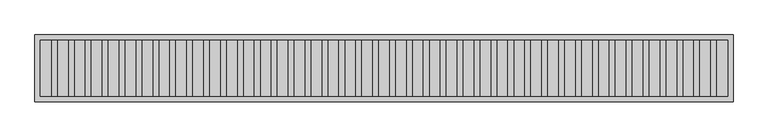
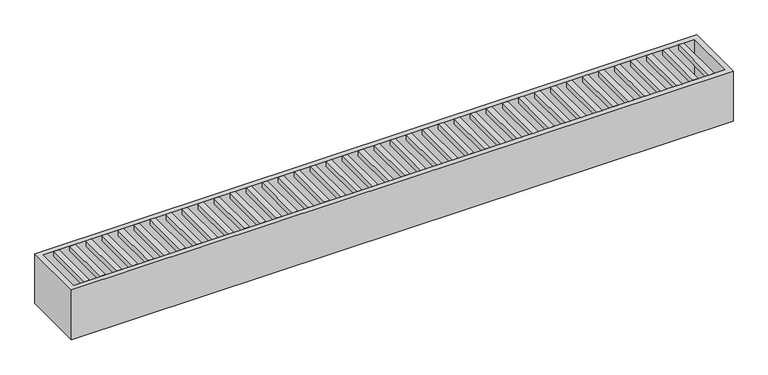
"""IFC4 building model written with IfcOpenShell, lengths in millimetres: flow terminal geometry, ARQ-RE-EX-Ace : L=2.51m."""

from ifc_helpers import new_model, si_unit, frame, origin, place, context, project, spatial, polyline, outline, extrude, source, transform, mapped, element, save


def flow_terminal_f0fdbc4b(model_context):
    return source(origin(), model_context, "Body", "SweptSolid", [
        extrude(outline(polyline([(1134.2307692, 100.0), (1134.2307692, -100.0), (1114.2307692, -100.0), (1114.2307692, 100.0), (1134.2307692, 100.0)])), frame((0.0, 0.0, -20.0), z_axis=(0.0, 0.0, 1.0), x_axis=(1.0, 0.0, 0.0)), (0.0, 0.0, 1.0), 20.0),
        extrude(outline(polyline([(1073.4615385, 100.0), (1073.4615385, -100.0), (1053.4615385, -100.0), (1053.4615385, 100.0), (1073.4615385, 100.0)])), frame((0.0, 0.0, -20.0), z_axis=(0.0, 0.0, 1.0), x_axis=(1.0, 0.0, 0.0)), (0.0, 0.0, 1.0), 20.0),
        extrude(outline(polyline([(1012.6923077, 100.0), (1012.6923077, -100.0), (992.6923077, -100.0), (992.6923077, 100.0), (1012.6923077, 100.0)])), frame((0.0, 0.0, -20.0), z_axis=(0.0, 0.0, 1.0), x_axis=(1.0, 0.0, 0.0)), (0.0, 0.0, 1.0), 20.0),
        extrude(outline(polyline([(951.9230769, 100.0), (951.9230769, -100.0), (931.9230769, -100.0), (931.9230769, 100.0), (951.9230769, 100.0)])), frame((0.0, 0.0, -20.0), z_axis=(0.0, 0.0, 1.0), x_axis=(1.0, 0.0, 0.0)), (0.0, 0.0, 1.0), 20.0),
        extrude(outline(polyline([(891.1538462, 100.0), (891.1538462, -100.0), (871.1538462, -100.0), (871.1538462, 100.0), (891.1538462, 100.0)])), frame((0.0, 0.0, -20.0), z_axis=(0.0, 0.0, 1.0), x_axis=(1.0, 0.0, 0.0)), (0.0, 0.0, 1.0), 20.0),
        extrude(outline(polyline([(830.3846154, 100.0), (830.3846154, -100.0), (810.3846154, -100.0), (810.3846154, 100.0), (830.3846154, 100.0)])), frame((0.0, 0.0, -20.0), z_axis=(0.0, 0.0, 1.0), x_axis=(1.0, 0.0, 0.0)), (0.0, 0.0, 1.0), 20.0),
        extrude(outline(polyline([(769.6153846, 100.0), (769.6153846, -100.0), (749.6153846, -100.0), (749.6153846, 100.0), (769.6153846, 100.0)])), frame((0.0, 0.0, -20.0), z_axis=(0.0, 0.0, 1.0), x_axis=(1.0, 0.0, 0.0)), (0.0, 0.0, 1.0), 20.0),
        extrude(outline(polyline([(708.8461538, 100.0), (708.8461538, -100.0), (688.8461538, -100.0), (688.8461538, 100.0), (708.8461538, 100.0)])), frame((0.0, 0.0, -20.0), z_axis=(0.0, 0.0, 1.0), x_axis=(1.0, 0.0, 0.0)), (0.0, 0.0, 1.0), 20.0),
        extrude(outline(polyline([(648.0769231, 100.0), (648.0769231, -100.0), (628.0769231, -100.0), (628.0769231, 100.0), (648.0769231, 100.0)])), frame((0.0, 0.0, -20.0), z_axis=(0.0, 0.0, 1.0), x_axis=(1.0, 0.0, 0.0)), (0.0, 0.0, 1.0), 20.0),
        extrude(outline(polyline([(587.3076923, 100.0), (587.3076923, -100.0), (567.3076923, -100.0), (567.3076923, 100.0), (587.3076923, 100.0)])), frame((0.0, 0.0, -20.0), z_axis=(0.0, 0.0, 1.0), x_axis=(1.0, 0.0, 0.0)), (0.0, 0.0, 1.0), 20.0),
        extrude(outline(polyline([(526.5384615, 100.0), (526.5384615, -100.0), (506.5384615, -100.0), (506.5384615, 100.0), (526.5384615, 100.0)])), frame((0.0, 0.0, -20.0), z_axis=(0.0, 0.0, 1.0), x_axis=(1.0, 0.0, 0.0)), (0.0, 0.0, 1.0), 20.0),
        extrude(outline(polyline([(465.7692308, 100.0), (465.7692308, -100.0), (445.7692308, -100.0), (445.7692308, 100.0), (465.7692308, 100.0)])), frame((0.0, 0.0, -20.0), z_axis=(0.0, 0.0, 1.0), x_axis=(1.0, 0.0, 0.0)), (0.0, 0.0, 1.0), 20.0),
        extrude(outline(polyline([(405.0, 100.0), (405.0, -100.0), (385.0, -100.0), (385.0, 100.0), (405.0, 100.0)])), frame((0.0, 0.0, -20.0), z_axis=(0.0, 0.0, 1.0), x_axis=(1.0, 0.0, 0.0)), (0.0, 0.0, 1.0), 20.0),
        extrude(outline(polyline([(344.2307692, 100.0), (344.2307692, -100.0), (324.2307692, -100.0), (324.2307692, 100.0), (344.2307692, 100.0)])), frame((0.0, 0.0, -20.0), z_axis=(0.0, 0.0, 1.0), x_axis=(1.0, 0.0, 0.0)), (0.0, 0.0, 1.0), 20.0),
        extrude(outline(polyline([(283.4615385, 100.0), (283.4615385, -100.0), (263.4615385, -100.0), (263.4615385, 100.0), (283.4615385, 100.0)])), frame((0.0, 0.0, -20.0), z_axis=(0.0, 0.0, 1.0), x_axis=(1.0, 0.0, 0.0)), (0.0, 0.0, 1.0), 20.0),
        extrude(outline(polyline([(222.6923077, 100.0), (222.6923077, -100.0), (202.6923077, -100.0), (202.6923077, 100.0), (222.6923077, 100.0)])), frame((0.0, 0.0, -20.0), z_axis=(0.0, 0.0, 1.0), x_axis=(1.0, 0.0, 0.0)), (0.0, 0.0, 1.0), 20.0),
        extrude(outline(polyline([(161.9230769, 100.0), (161.9230769, -100.0), (141.9230769, -100.0), (141.9230769, 100.0), (161.9230769, 100.0)])), frame((0.0, 0.0, -20.0), z_axis=(0.0, 0.0, 1.0), x_axis=(1.0, 0.0, 0.0)), (0.0, 0.0, 1.0), 20.0),
        extrude(outline(polyline([(101.1538462, 100.0), (101.1538462, -100.0), (81.1538462, -100.0), (81.1538462, 100.0), (101.1538462, 100.0)])), frame((0.0, 0.0, -20.0), z_axis=(0.0, 0.0, 1.0), x_axis=(1.0, 0.0, 0.0)), (0.0, 0.0, 1.0), 20.0),
        extrude(outline(polyline([(40.3846154, 100.0), (40.3846154, -100.0), (20.3846154, -100.0), (20.3846154, 100.0), (40.3846154, 100.0)])), frame((0.0, 0.0, -20.0), z_axis=(0.0, 0.0, 1.0), x_axis=(1.0, 0.0, 0.0)), (0.0, 0.0, 1.0), 20.0),
        extrude(outline(polyline([(-20.3846154, 100.0), (-20.3846154, -100.0), (-40.3846154, -100.0), (-40.3846154, 100.0), (-20.3846154, 100.0)])), frame((0.0, 0.0, -20.0), z_axis=(0.0, 0.0, 1.0), x_axis=(1.0, 0.0, 0.0)), (0.0, 0.0, 1.0), 20.0),
        extrude(outline(polyline([(-81.1538462, 100.0), (-81.1538462, -100.0), (-101.1538462, -100.0), (-101.1538462, 100.0), (-81.1538462, 100.0)])), frame((0.0, 0.0, -20.0), z_axis=(0.0, 0.0, 1.0), x_axis=(1.0, 0.0, 0.0)), (0.0, 0.0, 1.0), 20.0),
        extrude(outline(polyline([(-141.9230769, 100.0), (-141.9230769, -100.0), (-161.9230769, -100.0), (-161.9230769, 100.0), (-141.9230769, 100.0)])), frame((0.0, 0.0, -20.0), z_axis=(0.0, 0.0, 1.0), x_axis=(1.0, 0.0, 0.0)), (0.0, 0.0, 1.0), 20.0),
        extrude(outline(polyline([(-202.6923077, 100.0), (-202.6923077, -100.0), (-222.6923077, -100.0), (-222.6923077, 100.0), (-202.6923077, 100.0)])), frame((0.0, 0.0, -20.0), z_axis=(0.0, 0.0, 1.0), x_axis=(1.0, 0.0, 0.0)), (0.0, 0.0, 1.0), 20.0),
        extrude(outline(polyline([(-263.4615385, 100.0), (-263.4615385, -100.0), (-283.4615385, -100.0), (-283.4615385, 100.0), (-263.4615385, 100.0)])), frame((0.0, 0.0, -20.0), z_axis=(0.0, 0.0, 1.0), x_axis=(1.0, 0.0, 0.0)), (0.0, 0.0, 1.0), 20.0),
        extrude(outline(polyline([(-324.2307692, 100.0), (-324.2307692, -100.0), (-344.2307692, -100.0), (-344.2307692, 100.0), (-324.2307692, 100.0)])), frame((0.0, 0.0, -20.0), z_axis=(0.0, 0.0, 1.0), x_axis=(1.0, 0.0, 0.0)), (0.0, 0.0, 1.0), 20.0),
        extrude(outline(polyline([(-385.0, 100.0), (-385.0, -100.0), (-405.0, -100.0), (-405.0, 100.0), (-385.0, 100.0)])), frame((0.0, 0.0, -20.0), z_axis=(0.0, 0.0, 1.0), x_axis=(1.0, 0.0, 0.0)), (0.0, 0.0, 1.0), 20.0),
        extrude(outline(polyline([(-445.7692308, 100.0), (-445.7692308, -100.0), (-465.7692308, -100.0), (-465.7692308, 100.0), (-445.7692308, 100.0)])), frame((0.0, 0.0, -20.0), z_axis=(0.0, 0.0, 1.0), x_axis=(1.0, 0.0, 0.0)), (0.0, 0.0, 1.0), 20.0),
        extrude(outline(polyline([(-506.5384615, 100.0), (-506.5384615, -100.0), (-526.5384615, -100.0), (-526.5384615, 100.0), (-506.5384615, 100.0)])), frame((0.0, 0.0, -20.0), z_axis=(0.0, 0.0, 1.0), x_axis=(1.0, 0.0, 0.0)), (0.0, 0.0, 1.0), 20.0),
        extrude(outline(polyline([(-567.3076923, 100.0), (-567.3076923, -100.0), (-587.3076923, -100.0), (-587.3076923, 100.0), (-567.3076923, 100.0)])), frame((0.0, 0.0, -20.0), z_axis=(0.0, 0.0, 1.0), x_axis=(1.0, 0.0, 0.0)), (0.0, 0.0, 1.0), 20.0),
        extrude(outline(polyline([(-628.0769231, 100.0), (-628.0769231, -100.0), (-648.0769231, -100.0), (-648.0769231, 100.0), (-628.0769231, 100.0)])), frame((0.0, 0.0, -20.0), z_axis=(0.0, 0.0, 1.0), x_axis=(1.0, 0.0, 0.0)), (0.0, 0.0, 1.0), 20.0),
        extrude(outline(polyline([(-688.8461538, 100.0), (-688.8461538, -100.0), (-708.8461538, -100.0), (-708.8461538, 100.0), (-688.8461538, 100.0)])), frame((0.0, 0.0, -20.0), z_axis=(0.0, 0.0, 1.0), x_axis=(1.0, 0.0, 0.0)), (0.0, 0.0, 1.0), 20.0),
        extrude(outline(polyline([(-749.6153846, 100.0), (-749.6153846, -100.0), (-769.6153846, -100.0), (-769.6153846, 100.0), (-749.6153846, 100.0)])), frame((0.0, 0.0, -20.0), z_axis=(0.0, 0.0, 1.0), x_axis=(1.0, 0.0, 0.0)), (0.0, 0.0, 1.0), 20.0),
        extrude(outline(polyline([(-810.3846154, 100.0), (-810.3846154, -100.0), (-830.3846154, -100.0), (-830.3846154, 100.0), (-810.3846154, 100.0)])), frame((0.0, 0.0, -20.0), z_axis=(0.0, 0.0, 1.0), x_axis=(1.0, 0.0, 0.0)), (0.0, 0.0, 1.0), 20.0),
        extrude(outline(polyline([(-871.1538462, 100.0), (-871.1538462, -100.0), (-891.1538462, -100.0), (-891.1538462, 100.0), (-871.1538462, 100.0)])), frame((0.0, 0.0, -20.0), z_axis=(0.0, 0.0, 1.0), x_axis=(1.0, 0.0, 0.0)), (0.0, 0.0, 1.0), 20.0),
        extrude(outline(polyline([(-931.9230769, 100.0), (-931.9230769, -100.0), (-951.9230769, -100.0), (-951.9230769, 100.0), (-931.9230769, 100.0)])), frame((0.0, 0.0, -20.0), z_axis=(0.0, 0.0, 1.0), x_axis=(1.0, 0.0, 0.0)), (0.0, 0.0, 1.0), 20.0),
        extrude(outline(polyline([(-992.6923077, 100.0), (-992.6923077, -100.0), (-1012.6923077, -100.0), (-1012.6923077, 100.0), (-992.6923077, 100.0)])), frame((0.0, 0.0, -20.0), z_axis=(0.0, 0.0, 1.0), x_axis=(1.0, 0.0, 0.0)), (0.0, 0.0, 1.0), 20.0),
        extrude(outline(polyline([(-1053.4615385, 100.0), (-1053.4615385, -100.0), (-1073.4615385, -100.0), (-1073.4615385, 100.0), (-1053.4615385, 100.0)])), frame((0.0, 0.0, -20.0), z_axis=(0.0, 0.0, 1.0), x_axis=(1.0, 0.0, 0.0)), (0.0, 0.0, 1.0), 20.0),
        extrude(outline(polyline([(-1114.2307692, 100.0), (-1114.2307692, -100.0), (-1134.2307692, -100.0), (-1134.2307692, 100.0), (-1114.2307692, 100.0)])), frame((0.0, 0.0, -20.0), z_axis=(0.0, 0.0, 1.0), x_axis=(1.0, 0.0, 0.0)), (0.0, 0.0, 1.0), 20.0),
        extrude(outline(polyline([(1195.0, 100.0), (1195.0, -100.0), (1175.0, -100.0), (1175.0, 100.0), (1195.0, 100.0)])), frame((0.0, 0.0, -20.0), z_axis=(0.0, 0.0, 1.0), x_axis=(1.0, 0.0, 0.0)), (0.0, 0.0, 1.0), 20.0),
        extrude(outline(polyline([(-1175.0, 100.0), (-1175.0, -100.0), (-1195.0, -100.0), (-1195.0, 100.0), (-1175.0, 100.0)])), frame((0.0, 0.0, -20.0), z_axis=(0.0, 0.0, 1.0), x_axis=(1.0, 0.0, 0.0)), (0.0, 0.0, 1.0), 20.0),
        extrude(outline(polyline([(1235.0, 100.0), (1235.0, -100.0), (-1235.0, -100.0), (-1235.0, 100.0), (1235.0, 100.0)])), frame((0.0, 0.0, -200.0), z_axis=(0.0, 0.0, 1.0), x_axis=(1.0, 0.0, 0.0)), (0.0, 0.0, 1.0), 20.0),
        extrude(outline(polyline([(1255.0, 120.0), (1255.0, -120.0), (-1255.0, -120.0), (-1255.0, 120.0), (1255.0, 120.0)]), holes=[polyline([(1235.0, 100.0), (-1235.0, 100.0), (-1235.0, -100.0), (1235.0, -100.0), (1235.0, 100.0)])]), frame((0.0, 0.0, -200.0), z_axis=(0.0, 0.0, 1.0), x_axis=(1.0, 0.0, 0.0)), (0.0, 0.0, 1.0), 200.0),
    ])


if __name__ == "__main__":
    model = new_model("IFC4")
    model_context = context("Model", 3, world=origin())
    ifc_project = project(units=[si_unit("LENGTHUNIT", "METRE", prefix="MILLI")], contexts=[model_context])
    site = spatial("IfcSite", under=ifc_project)
    building = spatial("IfcBuilding", under=site)
    placement = place(None, origin())
    flow_terminal_shape = flow_terminal_f0fdbc4b(model_context)
    element("IfcFlowTerminal", 1, ObjectType="ARQ-RE-EX-Ace : L=2.51m", at=placement, inside=building, context=model_context, shape_type="MappedRepresentation", body=[
        mapped(flow_terminal_shape, transform((0.0, 0.0, 0.0), x_axis=(1.0, 0.0, 0.0), y_axis=(0.0, 1.0, 0.0), z_axis=(0.0, 0.0, 1.0))),
    ])
    save(model, "model.ifc")
